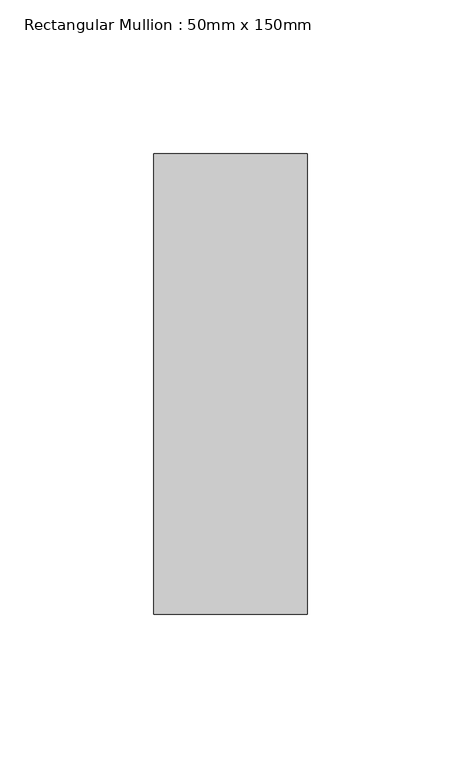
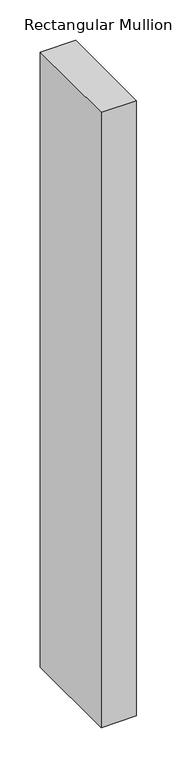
"""IFC4 building model written with IfcOpenShell, lengths in millimetres: member geometry, Rectangular Mullion : 50mm x 150mm."""

from ifc_helpers import new_model, si_unit, frame, origin, place, context, project, spatial, polyline, outline, extrude, source, transform, mapped, element, save


def rectangular_mullion_50mm_x_150mm_457f67df(model_context):
    return source(origin(), model_context, "Body", "SweptSolid", [
        extrude(outline(polyline([(25.0, 75.0), (25.0, -75.0), (-25.0, -75.0), (-25.0, 75.0), (25.0, 75.0)])), frame((0.0, 0.0, -927.9584148), z_axis=(0.0, 0.0, 1.0), x_axis=(1.0, 0.0, 0.0)), (0.0, 0.0, 1.0), 927.9584148),
    ])


if __name__ == "__main__":
    model = new_model("IFC4")
    model_context = context("Model", 3, world=origin())
    ifc_project = project(units=[si_unit("LENGTHUNIT", "METRE", prefix="MILLI")], contexts=[model_context])
    site = spatial("IfcSite", under=ifc_project)
    building = spatial("IfcBuilding", under=site)
    placement = place(None, origin())
    rectangular_mullion_50mm_x_150mm_shape = rectangular_mullion_50mm_x_150mm_457f67df(model_context)
    element("IfcMember", 1, ObjectType="Rectangular Mullion : 50mm x 150mm", at=placement, inside=building, context=model_context, shape_type="MappedRepresentation", body=[
        mapped(rectangular_mullion_50mm_x_150mm_shape, transform((0.0, 0.0, 0.0), x_axis=(1.0, 0.0, 0.0), y_axis=(0.0, 1.0, 0.0), z_axis=(0.0, 0.0, 1.0))),
    ])
    save(model, "model.ifc")
